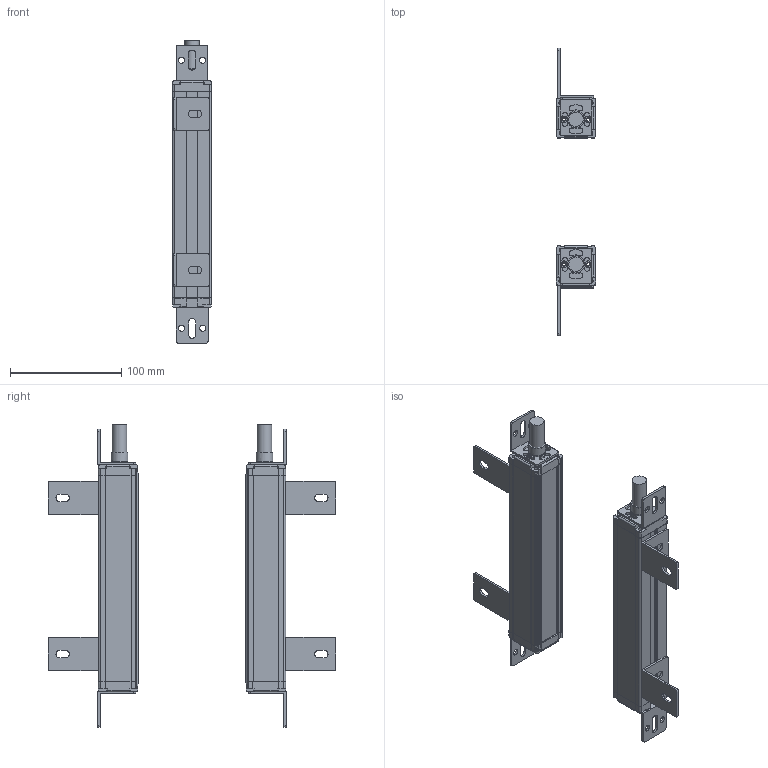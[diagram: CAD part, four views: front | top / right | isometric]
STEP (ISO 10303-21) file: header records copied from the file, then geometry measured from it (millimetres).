
FILE_DESCRIPTION(/* description */ (''),/* implementation_level */ '2;1');
FILE_NAME(/* name */ '0820_35X35_stp.stp',/* time_stamp */ '2023-09-18T16:13:05+08:00',/* author */ (''),/* organization */ (''),/* preprocessor_version */ 'ST-DEVELOPER v16.7',/* originating_system */ 'SIEMENS PLM Software NX 12.0',/* authorisation */ '');
FILE_SCHEMA (('AP203_CONFIGURATION_CONTROLLED_3D_DESIGN_OF_MECHANICAL_PARTS_AND_ASSEMBLIES_MIM_LF { 1 0 10303 403 2 1 2}'));
Length unit declared in the file: millimetre
Products named in the file (1): 0820_35X35_stp_stp
Bounding box: 35.41 x 258.01 x 271.6 mm (x, y, z)
Volume: 239064.6 mm3; surface area: 189832.7 mm2
Topology: 28 solids, 28 shells, 1182 faces, 3360 edges, 2260 vertices
Faces by surface type: plane 658, cylinder 464, cone 60
Full cylindrical faces by diameter (mm): 3.2 x8, 6 x24, 13 x2, 14.4 x2, 15 x2
Entity records: 39055 total; most frequent: DIRECTION 6832, CARTESIAN_POINT 6745, ORIENTED_EDGE 6612, EDGE_CURVE 3306, AXIS2_PLACEMENT_3D 2347, VERTEX_POINT 2244, LINE 2138, VECTOR 2138
